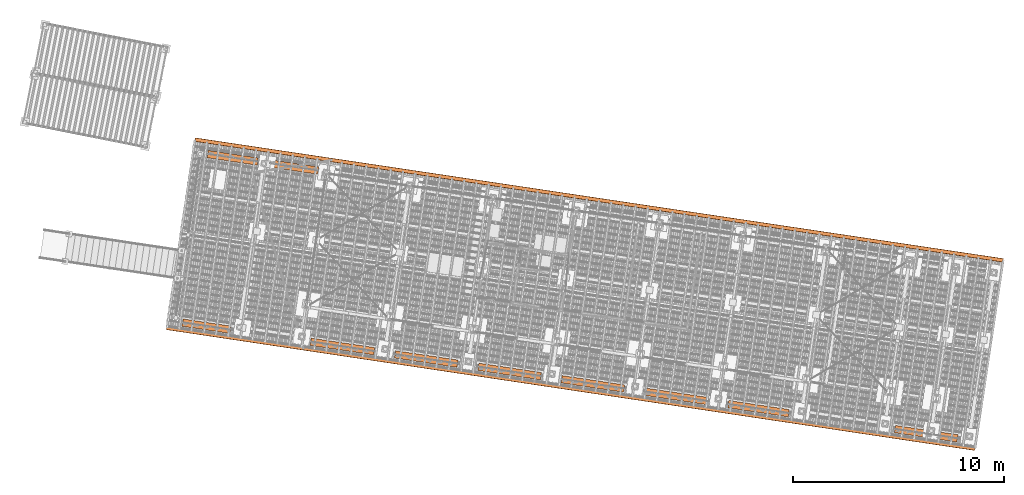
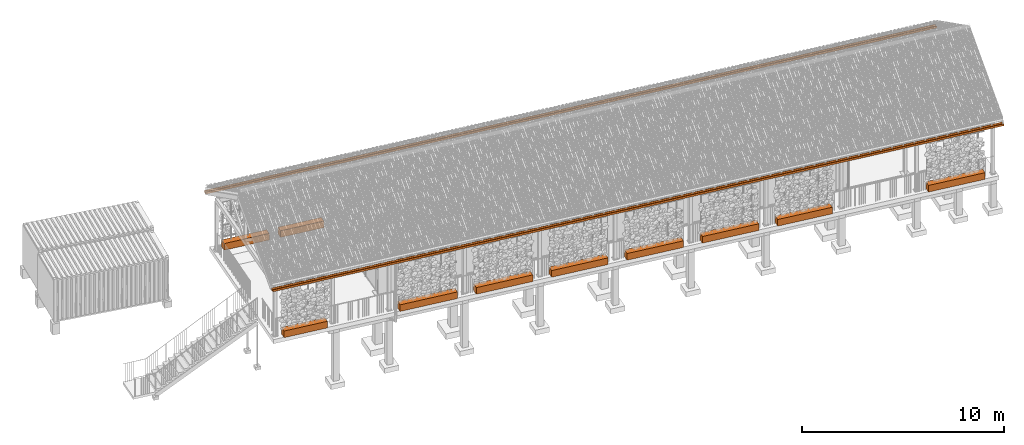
# One storey, part 131 of 131: 12 proxies, 1 element without a shape of its own.
"""IFC4 building model written with IfcOpenShell, lengths in metres."""

from ifc_helpers import new_model, si_unit, direction, frame, origin_with_axes, place, context, subcontext, project, spatial, polyline, outline, extrude, material, element, aggregate, save


model = new_model("IFC4")

# Units and contexts
model_context = context("Model", 3, precision=1e-05, world=origin_with_axes(), true_north=direction((0.0, 1.0)))
body_context = subcontext(model_context, "Body", "Model", "MODEL_VIEW")
ifc_project = project(units=[si_unit("VOLUMEUNIT", "CUBIC_METRE"), si_unit("LENGTHUNIT", "METRE"), si_unit("AREAUNIT", "SQUARE_METRE")], contexts=[model_context])

# Site, building, storey
site_placement = place(None, origin_with_axes())
site = spatial("IfcSite", under=ifc_project, at=site_placement, Name="Lares · Rua das Mercês · artigo 4771")
building_placement = place(site_placement, frame((15.0, 9.7, 15.8), z_axis=(0.0, 0.0, 1.0), x_axis=(0.989015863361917, -0.147809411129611, 0.0)))
building = spatial("IfcBuilding", under=site, at=building_placement, Name="Casa Sobreposta")
storey_placement = place(building_placement, origin_with_axes())
storey = spatial("IfcBuildingStorey", under=building, at=storey_placement, Name="00 · Habitação e estacionamento", Elevation=15.8)

# Proxies
ifc_material_1 = material(Name="Aço galvanizado / Stahl verzinkt", Category="steel")
proxy_1_placement = place(storey_placement, frame((-6.4, 0.0, 0.0), z_axis=(0.999998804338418, 0.0, 0.00154638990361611), x_axis=(0.0, 1.0, 0.0)))
element("IfcBuildingElementProxy", 1, at=proxy_1_placement, inside=storey, material=ifc_material_1, Name="Cobertura · caleira pluvial para cisterna", ObjectType="Cobertura · caleira pluvial para cisterna", PredefinedType="USERDEFINED", context=body_context, shape_type="SweptSolid", body=[
    extrude(outline(polyline([(-2.06, 3.2), (-2.06, 3.08), (-1.88, 3.08), (-1.88, 3.2), (-1.888, 3.2), (-1.888, 3.088), (-2.052, 3.088), (-2.052, 3.2), (-2.06, 3.2)])), origin_with_axes(), (0.0, 0.0, 1.0), 38.8),
])
proxy_2_placement = place(storey_placement, frame((-6.4, 0.0, 0.0), z_axis=(0.999998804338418, 0.0, 0.00154638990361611), x_axis=(0.0, 1.0, 0.0)))
element("IfcBuildingElementProxy", 2, at=proxy_2_placement, inside=storey, material=ifc_material_1, Name="Cobertura · caleira pluvial para cisterna", ObjectType="Cobertura · caleira pluvial para cisterna", PredefinedType="USERDEFINED", context=body_context, shape_type="SweptSolid", body=[
    extrude(outline(polyline([(6.98, 3.2), (6.98, 3.08), (7.16, 3.08), (7.16, 3.2), (7.152, 3.2), (7.152, 3.088), (6.988, 3.088), (6.988, 3.2), (6.98, 3.2)])), origin_with_axes(), (0.0, 0.0, 1.0), 38.8),
])

# Assembly, proxies
assembly_placement = place(storey_placement, origin_with_axes())
assembly = element("IfcElementAssembly", 3, at=assembly_placement, inside=storey, Name="Fachada sul e pátio · estrutura e trepadeiras", ObjectType="LIVING_SHADE_TRELLIS", PredefinedType="USERDEFINED")
ifc_material_2 = material(Name="Betão armado / Stahlbeton", Category="concrete")
proxy_3_placement = place(assembly_placement, frame((0.0, 0.0, -0.04), z_axis=(0.0, 0.0, 1.0), x_axis=(1.0, 0.0, 0.0)))
proxy_3 = element("IfcBuildingElementProxy", 4, at=proxy_3_placement, material=ifc_material_2, Name="Trepadeiras · floreira", ObjectType="Trepadeiras · floreira", PredefinedType="USERDEFINED", context=body_context, shape_type="SweptSolid", body=[
    extrude(outline(polyline([(-3.4, -1.785), (-3.4, -1.435), (-5.7, -1.435), (-5.7, -1.785), (-3.4, -1.785)])), origin_with_axes(), (0.0, 0.0, 1.0), 0.4),
])
proxy_4_placement = place(assembly_placement, frame((0.0, 0.0, -0.04), z_axis=(0.0, 0.0, 1.0), x_axis=(1.0, 0.0, 0.0)))
proxy_4 = element("IfcBuildingElementProxy", 5, at=proxy_4_placement, material=ifc_material_2, Name="Trepadeiras · floreira", ObjectType="Trepadeiras · floreira", PredefinedType="USERDEFINED", context=body_context, shape_type="SweptSolid", body=[
    extrude(outline(polyline([(3.5, -1.785), (3.5, -1.435), (0.45, -1.435), (0.45, -1.785), (3.5, -1.785)])), origin_with_axes(), (0.0, 0.0, 1.0), 0.4),
])
proxy_5_placement = place(assembly_placement, frame((0.0, 0.0, -0.04), z_axis=(0.0, 0.0, 1.0), x_axis=(1.0, 0.0, 0.0)))
proxy_5 = element("IfcBuildingElementProxy", 6, at=proxy_5_placement, material=ifc_material_2, Name="Trepadeiras · floreira", ObjectType="Trepadeiras · floreira", PredefinedType="USERDEFINED", context=body_context, shape_type="SweptSolid", body=[
    extrude(outline(polyline([(7.5, -1.785), (7.5, -1.435), (4.5, -1.435), (4.5, -1.785), (7.5, -1.785)])), origin_with_axes(), (0.0, 0.0, 1.0), 0.4),
])
proxy_6_placement = place(assembly_placement, frame((0.0, 0.0, -0.04), z_axis=(0.0, 0.0, 1.0), x_axis=(1.0, 0.0, 0.0)))
proxy_6 = element("IfcBuildingElementProxy", 7, at=proxy_6_placement, material=ifc_material_2, Name="Trepadeiras · floreira", ObjectType="Trepadeiras · floreira", PredefinedType="USERDEFINED", context=body_context, shape_type="SweptSolid", body=[
    extrude(outline(polyline([(11.5, -1.785), (11.5, -1.435), (8.5, -1.435), (8.5, -1.785), (11.5, -1.785)])), origin_with_axes(), (0.0, 0.0, 1.0), 0.4),
])
proxy_7_placement = place(assembly_placement, frame((0.0, 0.0, -0.04), z_axis=(0.0, 0.0, 1.0), x_axis=(1.0, 0.0, 0.0)))
proxy_7 = element("IfcBuildingElementProxy", 8, at=proxy_7_placement, material=ifc_material_2, Name="Trepadeiras · floreira", ObjectType="Trepadeiras · floreira", PredefinedType="USERDEFINED", context=body_context, shape_type="SweptSolid", body=[
    extrude(outline(polyline([(15.5, -1.785), (15.5, -1.435), (12.5, -1.435), (12.5, -1.785), (15.5, -1.785)])), origin_with_axes(), (0.0, 0.0, 1.0), 0.4),
])
proxy_8_placement = place(assembly_placement, frame((0.0, 0.0, -0.04), z_axis=(0.0, 0.0, 1.0), x_axis=(1.0, 0.0, 0.0)))
proxy_8 = element("IfcBuildingElementProxy", 9, at=proxy_8_placement, material=ifc_material_2, Name="Trepadeiras · floreira", ObjectType="Trepadeiras · floreira", PredefinedType="USERDEFINED", context=body_context, shape_type="SweptSolid", body=[
    extrude(outline(polyline([(19.5, -1.785), (19.5, -1.435), (16.5, -1.435), (16.5, -1.785), (19.5, -1.785)])), origin_with_axes(), (0.0, 0.0, 1.0), 0.4),
])
proxy_9_placement = place(assembly_placement, frame((0.0, 0.0, -0.04), z_axis=(0.0, 0.0, 1.0), x_axis=(1.0, 0.0, 0.0)))
proxy_9 = element("IfcBuildingElementProxy", 10, at=proxy_9_placement, material=ifc_material_2, Name="Trepadeiras · floreira", ObjectType="Trepadeiras · floreira", PredefinedType="USERDEFINED", context=body_context, shape_type="SweptSolid", body=[
    extrude(outline(polyline([(23.4, -1.785), (23.4, -1.435), (20.5, -1.435), (20.5, -1.785), (23.4, -1.785)])), origin_with_axes(), (0.0, 0.0, 1.0), 0.4),
])
proxy_10_placement = place(assembly_placement, frame((0.0, 0.0, -0.04), z_axis=(0.0, 0.0, 1.0), x_axis=(1.0, 0.0, 0.0)))
proxy_10 = element("IfcBuildingElementProxy", 11, at=proxy_10_placement, material=ifc_material_2, Name="Trepadeiras · floreira", ObjectType="Trepadeiras · floreira", PredefinedType="USERDEFINED", context=body_context, shape_type="SweptSolid", body=[
    extrude(outline(polyline([(31.5, -1.785), (31.5, -1.435), (28.5, -1.435), (28.5, -1.785), (31.5, -1.785)])), origin_with_axes(), (0.0, 0.0, 1.0), 0.4),
])
proxy_11_placement = place(assembly_placement, frame((0.0, 0.0, -0.04), z_axis=(0.0, 0.0, 1.0), x_axis=(1.0, 0.0, 0.0)))
proxy_11 = element("IfcBuildingElementProxy", 12, at=proxy_11_placement, material=ifc_material_2, Name="Trepadeiras · floreira", ObjectType="Trepadeiras · floreira", PredefinedType="USERDEFINED", context=body_context, shape_type="SweptSolid", body=[
    extrude(outline(polyline([(-3.3, 6.305), (-3.3, 6.655), (-5.7, 6.655), (-5.7, 6.305), (-3.3, 6.305)])), origin_with_axes(), (0.0, 0.0, 1.0), 0.4),
])
proxy_12_placement = place(assembly_placement, frame((0.0, 0.0, -0.04), z_axis=(0.0, 0.0, 1.0), x_axis=(1.0, 0.0, 0.0)))
proxy_12 = element("IfcBuildingElementProxy", 13, at=proxy_12_placement, material=ifc_material_2, Name="Trepadeiras · floreira", ObjectType="Trepadeiras · floreira", PredefinedType="USERDEFINED", context=body_context, shape_type="SweptSolid", body=[
    extrude(outline(polyline([(-0.4, 6.305), (-0.4, 6.655), (-2.7, 6.655), (-2.7, 6.305), (-0.4, 6.305)])), origin_with_axes(), (0.0, 0.0, 1.0), 0.4),
])
aggregate(assembly, [proxy_3, proxy_4, proxy_5, proxy_6, proxy_7, proxy_8, proxy_9, proxy_10, proxy_11, proxy_12])

save(model, "model.ifc")
